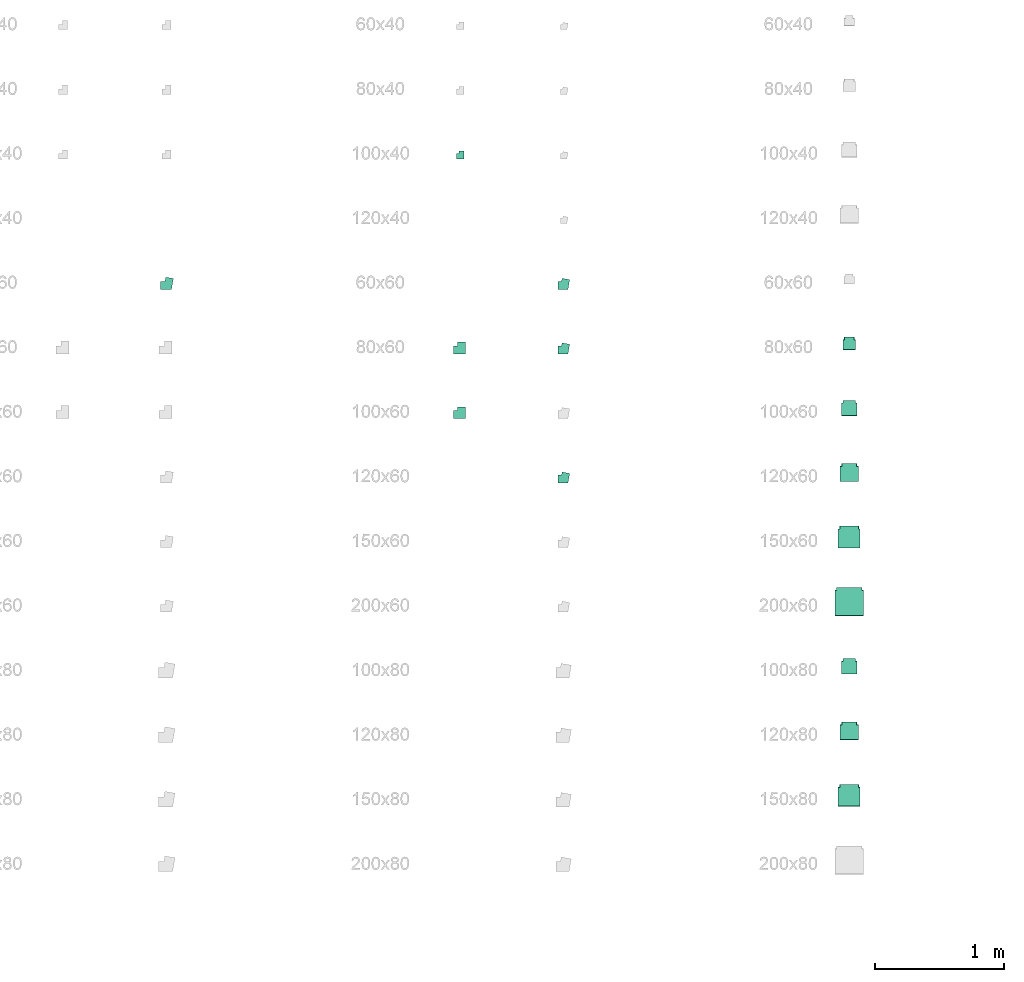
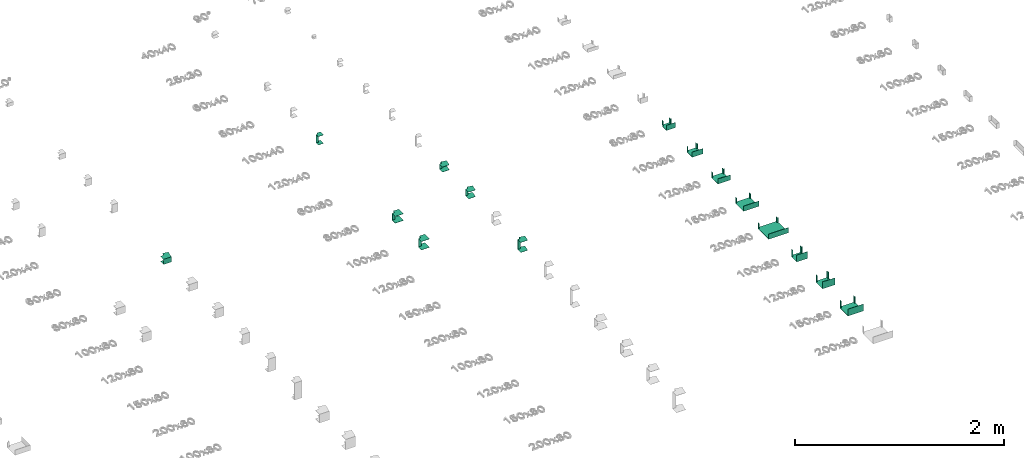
# One storey, part 7 of 71: 15 flow fittings.
"""IFC2X3 building model written with IfcOpenShell, lengths in millimetres."""

from ifc_helpers import new_model, entity, si_unit, converted_unit, derived_unit, direction, frame, origin, place, context, subcontext, project, spatial, faceted_brep, source, transform, mapped, material, type_object, type_shapes, element, save


model = new_model("IFC2X3")

# Units and contexts
model_context = context("Model", 3, precision=0.01, world=origin(), true_north=direction((6.12303176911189e-17, 1.0)))
body_context = subcontext(model_context, "Body", "Model", "MODEL_VIEW")
ifc_project = project(units=[si_unit("LENGTHUNIT", "METRE", prefix="MILLI"), si_unit("AREAUNIT", "SQUARE_METRE"), si_unit("VOLUMEUNIT", "CUBIC_METRE"), converted_unit("PLANEANGLEUNIT", "DEGREE", entity("IfcRatioMeasure", 0.0174532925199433), si_unit("PLANEANGLEUNIT", "RADIAN"), dimensions=[0, 0, 0, 0, 0, 0, 0]), si_unit("MASSUNIT", "GRAM", prefix="KILO"), derived_unit("MASSDENSITYUNIT", [(si_unit("MASSUNIT", "GRAM", prefix="KILO"), 1), (si_unit("LENGTHUNIT", "METRE"), -3)]), si_unit("TIMEUNIT", "SECOND"), si_unit("FREQUENCYUNIT", "HERTZ"), si_unit("THERMODYNAMICTEMPERATUREUNIT", "DEGREE_CELSIUS"), derived_unit("THERMALTRANSMITTANCEUNIT", [(si_unit("MASSUNIT", "GRAM", prefix="KILO"), 1), (si_unit("THERMODYNAMICTEMPERATUREUNIT", "KELVIN"), -1), (si_unit("TIMEUNIT", "SECOND"), -3)]), derived_unit("VOLUMETRICFLOWRATEUNIT", [(si_unit("LENGTHUNIT", "METRE"), 3), (si_unit("TIMEUNIT", "SECOND"), -1)]), si_unit("ELECTRICCURRENTUNIT", "AMPERE"), si_unit("ELECTRICVOLTAGEUNIT", "VOLT"), si_unit("POWERUNIT", "WATT"), si_unit("FORCEUNIT", "NEWTON", prefix="KILO"), si_unit("ILLUMINANCEUNIT", "LUX"), si_unit("LUMINOUSFLUXUNIT", "LUMEN"), si_unit("LUMINOUSINTENSITYUNIT", "CANDELA"), derived_unit("USERDEFINED", [(si_unit("MASSUNIT", "GRAM", prefix="KILO"), -1), (si_unit("LENGTHUNIT", "METRE"), -2), (si_unit("TIMEUNIT", "SECOND"), 3), (si_unit("LUMINOUSFLUXUNIT", "LUMEN"), 1)]), derived_unit("LINEARVELOCITYUNIT", [(si_unit("LENGTHUNIT", "METRE"), 1), (si_unit("TIMEUNIT", "SECOND"), -1)]), si_unit("PRESSUREUNIT", "PASCAL"), derived_unit("USERDEFINED", [(si_unit("LENGTHUNIT", "METRE"), -2), (si_unit("MASSUNIT", "GRAM", prefix="KILO"), 1), (si_unit("TIMEUNIT", "SECOND"), -2)])], contexts=[model_context])

# Site, building, storey
site_placement = place(None, origin())
site = spatial("IfcSite", under=ifc_project, at=site_placement, Name="Default", CompositionType="ELEMENT")
building_placement = place(site_placement, origin())
building = spatial("IfcBuilding", under=site, at=building_placement, Name="Наименование здания", CompositionType="ELEMENT")
storey_placement = place(building_placement, origin())
storey = spatial("IfcBuildingStorey", under=building, at=storey_placement, Name="Этаж 01", CompositionType="ELEMENT", Elevation=0.0)

# Flow fittings
ifc_material = material(Name="DKC_Пластик_Белый")
cable_carrier_fitting_type_1 = type_object("IfcCableCarrierFittingType", Name="Угол внутренний_DKC", PredefinedType="NOTDEFINED", material=ifc_material)
shared_shape_1 = source(origin(), body_context, "Body", "Brep", [
    faceted_brep([(-59.5414760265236, -30.0, 30.0), (-59.5414760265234, 30.0, 30.0), (-59.5414760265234, 30.0, 27.5000000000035), (-59.5414760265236, -27.4999999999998, 27.5000000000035), (-59.5414760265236, -27.4999999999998, -27.4999999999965), (-59.5414760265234, 30.0, -27.4999999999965), (-59.5414760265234, 30.0, -30.0), (-59.5414760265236, -30.0, -30.0), (39.8835013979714, 53.4274618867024, 30.0), (39.8835013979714, 53.4274618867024, -30.0), (-19.2049637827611, 63.8463525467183, -30.0), (-19.2049637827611, 63.8463525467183, -27.4999999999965), (37.4214820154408, 53.8615823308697, -27.4999999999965), (37.4214820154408, 53.8615823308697, 27.5000000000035), (-19.2049637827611, 63.8463525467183, 27.5000000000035), (-19.2049637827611, 63.8463525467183, 30.0), (25.172988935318, -30.0, 30.0), (-25.1729889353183, 30.0, 30.0), (-25.1729889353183, 30.0, 27.5000000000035), (23.0752398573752, -27.5000000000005, 27.5000000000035), (23.0752398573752, -27.5000000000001, -27.4999999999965), (-25.1729889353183, 30.0, -27.4999999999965), (-25.1729889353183, 30.0, -30.0), (25.1729889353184, -30.0, -30.0)], [[[0, 1, 2, 3, 4, 5, 6, 7]], [[8, 9, 10, 11, 12, 13, 14, 15]], [[1, 0, 16, 8, 15, 17]], [[2, 1, 17, 18]], [[3, 2, 18, 14, 13, 19]], [[4, 3, 19, 20]], [[5, 4, 20, 12, 11, 21]], [[6, 5, 21, 22]], [[7, 6, 22, 10, 9, 23]], [[0, 7, 23, 16]], [[18, 17, 15, 14]], [[20, 19, 13, 12]], [[22, 21, 11, 10]], [[16, 23, 9, 8]]]),
])
type_shapes(cable_carrier_fitting_type_1, [shared_shape_1])
flow_fitting_1_placement = place(storey_placement, frame((16600.2023027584, 60.7911827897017, 0.0)))
element("IfcFlowFitting", 1, at=flow_fitting_1_placement, inside=storey, type_object=cable_carrier_fitting_type_1, material=ifc_material, Name="КНС_УголВнутренний_ILC_DKC:Угол внутренний_DKC", ObjectType="Угол внутренний_DKC", context=body_context, shape_type="MappedRepresentation", body=[
    mapped(shared_shape_1, transform((0.0, 0.0, 0.0), scale=1.0)),
])
cable_carrier_fitting_type_2 = type_object("IfcCableCarrierFittingType", Name="Угол внешний_DKC", PredefinedType="NOTDEFINED", material=ifc_material)
shared_shape_2 = source(origin(), body_context, "Body", "Brep", [
    faceted_brep([(-40.0, 20.0, 50.0), (-40.0, 20.0, -50.0), (-40.0, -20.0, -50.0), (-40.0, -20.0, -47.4999999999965), (-40.0, 17.5000000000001, -47.4999999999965), (-40.0, 17.5000000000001, 47.5000000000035), (-40.0, -20.0, 47.5000000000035), (-40.0, -20.0, 50.0), (-20.0, 40.0, 50.0), (20.0, 40.0, 50.0), (20.0, 40.0, 47.5000000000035), (-17.499999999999, 40.0, 47.5000000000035), (-17.499999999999, 40.0, -47.4999999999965), (20.0, 40.0, -47.4999999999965), (20.0, 40.0, -50.0), (-20.0, 40.0, -50.0), (-20.0, 20.0, 50.0), (-20.0, 20.0, -50.0), (20.0, -20.0, -50.0), (20.0, -20.0, -47.4999999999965), (-17.4999999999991, 17.4999999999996, -47.4999999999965), (-17.4999999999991, 17.5000000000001, 47.5000000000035), (20.0, -20.0, 47.5000000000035), (20.0, -20.0, 50.0)], [[[0, 1, 2, 3, 4, 5, 6, 7]], [[8, 9, 10, 11, 12, 13, 14, 15]], [[1, 0, 16, 17]], [[2, 1, 17, 15, 14, 18]], [[3, 2, 18, 19]], [[4, 3, 19, 13, 12, 20]], [[5, 4, 20, 21]], [[6, 5, 21, 11, 10, 22]], [[7, 6, 22, 23]], [[0, 7, 23, 9, 8, 16]], [[17, 16, 8, 15]], [[19, 18, 14, 13]], [[21, 20, 12, 11]], [[23, 22, 10, 9]]]),
])
type_shapes(cable_carrier_fitting_type_2, [shared_shape_2])
flow_fitting_2_placement = place(storey_placement, frame((18870.2876691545, 1060.7911827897, 0.0)))
element("IfcFlowFitting", 2, at=flow_fitting_2_placement, inside=storey, type_object=cable_carrier_fitting_type_2, material=ifc_material, Name="КНС_УголВнешний_ILC_DKC:Угол внешний_DKC", ObjectType="Угол внешний_DKC", context=body_context, shape_type="MappedRepresentation", body=[
    mapped(shared_shape_2, transform((0.0, 0.0, 0.0), scale=1.0)),
])
cable_carrier_fitting_type_3 = type_object("IfcCableCarrierFittingType", Name="Угол внешний_DKC", PredefinedType="NOTDEFINED", material=ifc_material)
shared_shape_3 = source(origin(), body_context, "Body", "Brep", [
    faceted_brep([(-60.0, 30.0, 40.0), (-60.0, 30.0, -40.0), (-60.0, -30.0, -40.0), (-60.0, -30.0, -37.4999999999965), (-60.0, 27.5000000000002, -37.4999999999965), (-60.0, 27.5000000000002, 37.5000000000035), (-60.0, -30.0, 37.5000000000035), (-60.0, -30.0, 40.0), (-30.0, 60.0, 40.0), (30.0, 60.0, 40.0), (30.0, 60.0, 37.5000000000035), (-27.499999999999, 60.0, 37.5000000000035), (-27.499999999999, 60.0, -37.4999999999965), (30.0, 60.0, -37.4999999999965), (30.0, 60.0, -40.0), (-30.0, 60.0, -40.0), (-30.0, 30.0, 40.0), (-30.0, 30.0, -40.0), (30.0, -30.0, -40.0), (30.0, -30.0, -37.4999999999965), (-27.499999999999, 27.4999999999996, -37.4999999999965), (-27.499999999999, 27.5000000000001, 37.5000000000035), (30.0, -30.0, 37.5000000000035), (30.0, -30.0, 40.0)], [[[0, 1, 2, 3, 4, 5, 6, 7]], [[8, 9, 10, 11, 12, 13, 14, 15]], [[1, 0, 16, 17]], [[2, 1, 17, 15, 14, 18]], [[3, 2, 18, 19]], [[4, 3, 19, 13, 12, 20]], [[5, 4, 20, 21]], [[6, 5, 21, 11, 10, 22]], [[7, 6, 22, 23]], [[0, 7, 23, 9, 8, 16]], [[17, 16, 8, 15]], [[19, 18, 14, 13]], [[21, 20, 12, 11]], [[23, 22, 10, 9]]]),
])
type_shapes(cable_carrier_fitting_type_3, [shared_shape_3])
flow_fitting_3_placement = place(storey_placement, frame((18870.2876691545, -439.208817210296, 0.0)))
element("IfcFlowFitting", 3, at=flow_fitting_3_placement, inside=storey, type_object=cable_carrier_fitting_type_3, material=ifc_material, Name="КНС_УголВнешний_ILC_DKC:Угол внешний_DKC", ObjectType="Угол внешний_DKC", context=body_context, shape_type="MappedRepresentation", body=[
    mapped(shared_shape_3, transform((0.0, 0.0, 0.0), scale=1.0)),
])
cable_carrier_fitting_type_4 = type_object("IfcCableCarrierFittingType", Name="Угол внешний_DKC", PredefinedType="NOTDEFINED", material=ifc_material)
shared_shape_4 = source(origin(), body_context, "Body", "Brep", [
    faceted_brep([(-60.0, 30.0, 50.0), (-60.0, 30.0, -50.0), (-60.0, -30.0, -50.0), (-60.0, -30.0, -47.4999999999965), (-60.0, 27.5000000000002, -47.4999999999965), (-60.0, 27.5000000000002, 47.5000000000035), (-60.0, -30.0, 47.5000000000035), (-60.0, -30.0, 50.0), (-30.0, 60.0, 50.0), (30.0, 60.0, 50.0), (30.0, 60.0, 47.5000000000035), (-27.499999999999, 60.0, 47.5000000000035), (-27.499999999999, 60.0, -47.4999999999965), (30.0, 60.0, -47.4999999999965), (30.0, 60.0, -50.0), (-30.0, 60.0, -50.0), (-30.0, 30.0, 50.0), (-30.0, 30.0, -50.0), (30.0, -30.0, -50.0), (30.0, -30.0, -47.4999999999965), (-27.499999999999, 27.4999999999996, -47.4999999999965), (-27.499999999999, 27.5000000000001, 47.5000000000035), (30.0, -30.0, 47.5000000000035), (30.0, -30.0, 50.0)], [[[0, 1, 2, 3, 4, 5, 6, 7]], [[8, 9, 10, 11, 12, 13, 14, 15]], [[1, 0, 16, 17]], [[2, 1, 17, 15, 14, 18]], [[3, 2, 18, 19]], [[4, 3, 19, 13, 12, 20]], [[5, 4, 20, 21]], [[6, 5, 21, 11, 10, 22]], [[7, 6, 22, 23]], [[0, 7, 23, 9, 8, 16]], [[17, 16, 8, 15]], [[19, 18, 14, 13]], [[21, 20, 12, 11]], [[23, 22, 10, 9]]]),
])
type_shapes(cable_carrier_fitting_type_4, [shared_shape_4])
flow_fitting_4_placement = place(storey_placement, frame((18870.2876691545, -939.208817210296, 0.0)))
element("IfcFlowFitting", 4, at=flow_fitting_4_placement, inside=storey, type_object=cable_carrier_fitting_type_4, material=ifc_material, Name="КНС_УголВнешний_ILC_DKC:Угол внешний_DKC", ObjectType="Угол внешний_DKC", context=body_context, shape_type="MappedRepresentation", body=[
    mapped(shared_shape_4, transform((0.0, 0.0, 0.0), scale=1.0)),
])
cable_carrier_fitting_type_5 = type_object("IfcCableCarrierFittingType", Name="Угол внешний_DKC", PredefinedType="NOTDEFINED", material=ifc_material)
shared_shape_5 = source(origin(), body_context, "Body", "Brep", [
    faceted_brep([(-50.3459778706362, 30.0, 30.0), (-50.3459778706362, 30.0, -30.0), (-50.3459778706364, -30.0, -30.0), (-50.3459778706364, -30.0, -27.4999999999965), (-50.3459778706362, 27.5000000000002, -27.4999999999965), (-50.3459778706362, 27.5000000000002, 27.5000000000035), (-50.3459778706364, -30.0, 27.5000000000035), (-50.3459778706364, -30.0, 30.0), (-20.8017452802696, 54.7905546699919, 30.0), (38.2867199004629, 44.371664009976, 30.0), (38.2867199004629, 44.371664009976, 27.5000000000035), (-18.3397258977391, 54.3564342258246, 27.5000000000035), (-18.3397258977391, 54.3564342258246, -27.4999999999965), (38.2867199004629, 44.371664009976, -27.4999999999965), (38.2867199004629, 44.371664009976, -30.0), (-20.8017452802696, 54.7905546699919, -30.0), (-25.1729889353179, 30.0, 30.0), (-25.1729889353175, 30.0, -30.0), (25.1729889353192, -30.0, -30.0), (25.1729889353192, -30.0, -27.4999999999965), (-23.0752398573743, 27.4999999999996, -27.4999999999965), (-23.0752398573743, 27.5000000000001, 27.5000000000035), (25.1729889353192, -30.0, 27.5000000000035), (25.1729889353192, -30.0, 30.0)], [[[0, 1, 2, 3, 4, 5, 6, 7]], [[8, 9, 10, 11, 12, 13, 14, 15]], [[1, 0, 16, 17]], [[2, 1, 17, 15, 14, 18]], [[3, 2, 18, 19]], [[4, 3, 19, 13, 12, 20]], [[5, 4, 20, 21]], [[6, 5, 21, 11, 10, 22]], [[7, 6, 22, 23]], [[0, 7, 23, 9, 8, 16]], [[17, 16, 8, 15]], [[19, 18, 14, 13]], [[21, 20, 12, 11]], [[23, 22, 10, 9]]]),
])
type_shapes(cable_carrier_fitting_type_5, [shared_shape_5])
flow_fitting_5_placement = place(storey_placement, frame((19670.2876691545, 60.7911827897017, 0.0)))
element("IfcFlowFitting", 5, at=flow_fitting_5_placement, inside=storey, type_object=cable_carrier_fitting_type_5, material=ifc_material, Name="КНС_УголВнешний_ILC_DKC:Угол внешний_DKC", ObjectType="Угол внешний_DKC", context=body_context, shape_type="MappedRepresentation", body=[
    mapped(shared_shape_5, transform((0.0, 0.0, 0.0), scale=1.0)),
])
cable_carrier_fitting_type_6 = type_object("IfcCableCarrierFittingType", Name="Угол внешний_DKC", PredefinedType="NOTDEFINED", material=ifc_material)
shared_shape_6 = source(origin(), body_context, "Body", "Brep", [
    faceted_brep([(-50.3459778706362, 30.0, 40.0), (-50.3459778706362, 30.0, -40.0), (-50.3459778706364, -30.0, -40.0), (-50.3459778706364, -30.0, -37.4999999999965), (-50.3459778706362, 27.5000000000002, -37.4999999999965), (-50.3459778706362, 27.5000000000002, 37.5000000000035), (-50.3459778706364, -30.0, 37.5000000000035), (-50.3459778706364, -30.0, 40.0), (-20.8017452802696, 54.7905546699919, 40.0), (38.2867199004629, 44.371664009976, 40.0), (38.2867199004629, 44.371664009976, 37.5000000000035), (-18.3397258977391, 54.3564342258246, 37.5000000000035), (-18.3397258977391, 54.3564342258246, -37.4999999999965), (38.2867199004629, 44.371664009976, -37.4999999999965), (38.2867199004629, 44.371664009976, -40.0), (-20.8017452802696, 54.7905546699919, -40.0), (-25.1729889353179, 30.0, 40.0), (-25.1729889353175, 30.0, -40.0), (25.1729889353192, -30.0, -40.0), (25.1729889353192, -30.0, -37.4999999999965), (-23.0752398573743, 27.4999999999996, -37.4999999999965), (-23.0752398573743, 27.5000000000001, 37.5000000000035), (25.1729889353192, -30.0, 37.5000000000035), (25.1729889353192, -30.0, 40.0)], [[[0, 1, 2, 3, 4, 5, 6, 7]], [[8, 9, 10, 11, 12, 13, 14, 15]], [[1, 0, 16, 17]], [[2, 1, 17, 15, 14, 18]], [[3, 2, 18, 19]], [[4, 3, 19, 13, 12, 20]], [[5, 4, 20, 21]], [[6, 5, 21, 11, 10, 22]], [[7, 6, 22, 23]], [[0, 7, 23, 9, 8, 16]], [[17, 16, 8, 15]], [[19, 18, 14, 13]], [[21, 20, 12, 11]], [[23, 22, 10, 9]]]),
])
type_shapes(cable_carrier_fitting_type_6, [shared_shape_6])
flow_fitting_6_placement = place(storey_placement, frame((19670.2876691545, -439.208817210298, 0.0)))
element("IfcFlowFitting", 6, at=flow_fitting_6_placement, inside=storey, type_object=cable_carrier_fitting_type_6, material=ifc_material, Name="КНС_УголВнешний_ILC_DKC:Угол внешний_DKC", ObjectType="Угол внешний_DKC", context=body_context, shape_type="MappedRepresentation", body=[
    mapped(shared_shape_6, transform((0.0, 0.0, 0.0), scale=1.0)),
])
cable_carrier_fitting_type_7 = type_object("IfcCableCarrierFittingType", Name="Угол внешний_DKC", PredefinedType="NOTDEFINED", material=ifc_material)
shared_shape_7 = source(origin(), body_context, "Body", "Brep", [
    faceted_brep([(-50.3459778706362, 30.0, 60.0), (-50.3459778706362, 30.0, -60.0), (-50.3459778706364, -30.0, -60.0), (-50.3459778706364, -30.0, -57.4999999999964), (-50.3459778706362, 27.5000000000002, -57.4999999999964), (-50.3459778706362, 27.5000000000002, 57.5000000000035), (-50.3459778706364, -30.0, 57.5000000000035), (-50.3459778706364, -30.0, 60.0), (-20.8017452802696, 54.7905546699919, 60.0), (38.2867199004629, 44.371664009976, 60.0), (38.2867199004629, 44.371664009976, 57.5000000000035), (-18.3397258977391, 54.3564342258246, 57.5000000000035), (-18.3397258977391, 54.3564342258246, -57.4999999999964), (38.2867199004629, 44.371664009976, -57.4999999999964), (38.2867199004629, 44.371664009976, -60.0), (-20.8017452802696, 54.7905546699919, -60.0), (-25.1729889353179, 30.0, 60.0), (-25.1729889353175, 30.0, -60.0), (25.1729889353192, -30.0, -60.0), (25.1729889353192, -30.0, -57.4999999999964), (-23.0752398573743, 27.4999999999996, -57.4999999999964), (-23.0752398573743, 27.5000000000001, 57.5000000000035), (25.1729889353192, -30.0, 57.5000000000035), (25.1729889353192, -30.0, 60.0)], [[[0, 1, 2, 3, 4, 5, 6, 7]], [[8, 9, 10, 11, 12, 13, 14, 15]], [[1, 0, 16, 17]], [[2, 1, 17, 15, 14, 18]], [[3, 2, 18, 19]], [[4, 3, 19, 13, 12, 20]], [[5, 4, 20, 21]], [[6, 5, 21, 11, 10, 22]], [[7, 6, 22, 23]], [[0, 7, 23, 9, 8, 16]], [[17, 16, 8, 15]], [[19, 18, 14, 13]], [[21, 20, 12, 11]], [[23, 22, 10, 9]]]),
])
type_shapes(cable_carrier_fitting_type_7, [shared_shape_7])
flow_fitting_7_placement = place(storey_placement, frame((19670.2876691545, -1439.2088172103, 0.0)))
element("IfcFlowFitting", 7, at=flow_fitting_7_placement, inside=storey, type_object=cable_carrier_fitting_type_7, material=ifc_material, Name="КНС_УголВнешний_ILC_DKC:Угол внешний_DKC", ObjectType="Угол внешний_DKC", context=body_context, shape_type="MappedRepresentation", body=[
    mapped(shared_shape_7, transform((0.0, 0.0, 0.0), scale=1.0)),
])
cable_carrier_fitting_type_8 = type_object("IfcCableCarrierFittingType", Name="Тройник/отвод", PredefinedType="NOTDEFINED", material=ifc_material)
shared_shape_8 = source(origin(), body_context, "Body", "Brep", [
    faceted_brep([(50.0, -37.4999999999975, -27.4999999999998), (50.0, 37.5000000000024, -27.4999999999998), (37.4999999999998, 37.5000000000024, -27.4999999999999), (37.4999999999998, 60.0, -27.4999999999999), (-37.4999999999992, 60.0, -27.5000000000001), (-37.4999999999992, 37.5000000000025, -27.5000000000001), (-50.0, 37.5000000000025, -27.5000000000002), (-50.0, -37.4999999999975, -27.5000000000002), (50.0, -40.0, -30.0), (-50.0, -40.0, -30.0), (-50.0, 40.0, -30.0), (-40.0, 40.0, -30.0), (-40.0, 60.0, -30.0), (40.0, 60.0, -30.0), (40.0, 40.0, -30.0), (50.0, 40.0, -30.0), (50.0, 40.0, 30.0), (50.0, 37.5000000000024, 30.0), (50.0, -37.4999999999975, 30.0), (50.0, -40.0, 30.0), (40.0, 40.0, 30.0), (40.0, 60.0, 30.0), (-40.0, 60.0, 30.0), (-37.4999999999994, 60.0, 30.0), (37.4999999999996, 60.0, 30.0), (-40.0, 40.0, 30.0), (-50.0, 40.0, 30.0), (-50.0, -40.0, 30.0), (-50.0, -37.4999999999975, 30.0), (-50.0, 37.5000000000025, 30.0), (-37.4999999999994, 37.5000000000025, 30.0), (37.4999999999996, 37.5000000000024, 30.0)], [[[0, 1, 2, 3, 4, 5, 6, 7]], [[8, 9, 10, 11, 12, 13, 14, 15]], [[8, 15, 16, 17, 1, 0, 18, 19]], [[16, 15, 14, 20]], [[20, 14, 13, 21]], [[21, 13, 12, 22, 23, 4, 3, 24]], [[22, 12, 11, 25]], [[25, 11, 10, 26]], [[26, 10, 9, 27, 28, 7, 6, 29]], [[27, 9, 8, 19]], [[27, 19, 18, 28]], [[30, 29, 6, 5]], [[23, 30, 5, 4]], [[31, 24, 3, 2]], [[17, 31, 2, 1]], [[28, 18, 0, 7]], [[20, 21, 24, 31, 17, 16]], [[25, 26, 29, 30, 23, 22]]]),
])
type_shapes(cable_carrier_fitting_type_8, [shared_shape_8])
flow_fitting_8_placement = place(storey_placement, frame((21873.0522222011, -399.208817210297, 0.0)))
element("IfcFlowFitting", 8, at=flow_fitting_8_placement, inside=storey, type_object=cable_carrier_fitting_type_8, material=ifc_material, Name="КНС_ТройникNTAN_ILC_DKC:Тройник/отвод", ObjectType="Тройник/отвод", context=body_context, shape_type="MappedRepresentation", body=[
    mapped(shared_shape_8, transform((0.0, 0.0, 0.0), scale=1.0)),
])
cable_carrier_fitting_type_9 = type_object("IfcCableCarrierFittingType", Name="Тройник/отвод", PredefinedType="NOTDEFINED", material=ifc_material)
shared_shape_9 = source(origin(), body_context, "Body", "Brep", [
    faceted_brep([(60.0, -47.4999999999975, -27.4999999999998), (60.0, 47.5000000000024, -27.4999999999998), (47.4999999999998, 47.5000000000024, -27.4999999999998), (47.4999999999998, 70.0, -27.4999999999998), (-47.4999999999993, 70.0, -27.5000000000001), (-47.4999999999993, 47.5000000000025, -27.5000000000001), (-60.0, 47.5000000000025, -27.5000000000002), (-60.0, -47.4999999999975, -27.5000000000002), (60.0, -50.0, -30.0), (-60.0, -50.0, -30.0), (-60.0, 50.0, -30.0), (-50.0, 50.0, -30.0), (-50.0, 70.0, -30.0), (50.0, 70.0, -30.0), (50.0, 50.0, -30.0), (60.0, 50.0, -30.0), (60.0, 50.0, 30.0), (60.0, 47.5000000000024, 30.0), (60.0, -47.4999999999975, 30.0), (60.0, -50.0, 30.0), (50.0, 50.0, 30.0), (50.0, 70.0, 30.0), (-50.0, 70.0, 30.0), (-47.4999999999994, 70.0, 30.0), (47.4999999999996, 70.0, 30.0), (-50.0, 50.0, 30.0), (-60.0, 50.0, 30.0), (-60.0, -50.0, 30.0), (-60.0, -47.4999999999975, 30.0), (-60.0, 47.5000000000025, 30.0), (-47.4999999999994, 47.5000000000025, 30.0), (47.4999999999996, 47.5000000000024, 30.0)], [[[0, 1, 2, 3, 4, 5, 6, 7]], [[8, 9, 10, 11, 12, 13, 14, 15]], [[8, 15, 16, 17, 1, 0, 18, 19]], [[16, 15, 14, 20]], [[20, 14, 13, 21]], [[21, 13, 12, 22, 23, 4, 3, 24]], [[22, 12, 11, 25]], [[25, 11, 10, 26]], [[26, 10, 9, 27, 28, 7, 6, 29]], [[27, 9, 8, 19]], [[27, 19, 18, 28]], [[30, 29, 6, 5]], [[23, 30, 5, 4]], [[31, 24, 3, 2]], [[17, 31, 2, 1]], [[28, 18, 0, 7]], [[20, 21, 24, 31, 17, 16]], [[25, 26, 29, 30, 23, 22]]]),
])
type_shapes(cable_carrier_fitting_type_9, [shared_shape_9])
flow_fitting_9_placement = place(storey_placement, frame((21873.0522222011, -899.208817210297, 0.0)))
element("IfcFlowFitting", 9, at=flow_fitting_9_placement, inside=storey, type_object=cable_carrier_fitting_type_9, material=ifc_material, Name="КНС_ТройникNTAN_ILC_DKC:Тройник/отвод", ObjectType="Тройник/отвод", context=body_context, shape_type="MappedRepresentation", body=[
    mapped(shared_shape_9, transform((0.0, 0.0, 0.0), scale=1.0)),
])
cable_carrier_fitting_type_10 = type_object("IfcCableCarrierFittingType", Name="Тройник/отвод", PredefinedType="NOTDEFINED", material=ifc_material)
shared_shape_10 = source(origin(), body_context, "Body", "Brep", [
    faceted_brep([(70.0, -57.4999999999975, -27.4999999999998), (70.0, 57.5000000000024, -27.4999999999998), (57.4999999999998, 57.5000000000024, -27.4999999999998), (57.4999999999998, 80.0, -27.4999999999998), (-57.4999999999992, 80.0, -27.5000000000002), (-57.4999999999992, 57.5000000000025, -27.5000000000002), (-70.0, 57.5000000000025, -27.5000000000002), (-70.0, -57.4999999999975, -27.5000000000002), (70.0, -60.0, -30.0), (-70.0, -60.0, -30.0), (-70.0, 60.0, -30.0), (-60.0, 60.0, -30.0), (-60.0, 80.0, -30.0), (60.0, 80.0, -30.0), (60.0, 60.0, -30.0), (70.0, 60.0, -30.0), (70.0, 60.0, 30.0), (70.0, 57.5000000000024, 30.0), (70.0, -57.4999999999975, 30.0), (70.0, -60.0, 30.0), (60.0, 60.0, 30.0), (60.0, 80.0, 30.0), (-60.0, 80.0, 30.0), (-57.4999999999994, 80.0, 30.0), (57.4999999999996, 80.0, 30.0), (-60.0, 60.0, 30.0), (-70.0, 60.0, 30.0), (-70.0, -60.0, 30.0), (-70.0, -57.4999999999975, 30.0), (-70.0, 57.5000000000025, 30.0), (-57.4999999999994, 57.5000000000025, 30.0), (57.4999999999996, 57.5000000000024, 30.0)], [[[0, 1, 2, 3, 4, 5, 6, 7]], [[8, 9, 10, 11, 12, 13, 14, 15]], [[8, 15, 16, 17, 1, 0, 18, 19]], [[16, 15, 14, 20]], [[20, 14, 13, 21]], [[21, 13, 12, 22, 23, 4, 3, 24]], [[22, 12, 11, 25]], [[25, 11, 10, 26]], [[26, 10, 9, 27, 28, 7, 6, 29]], [[27, 9, 8, 19]], [[27, 19, 18, 28]], [[30, 29, 6, 5]], [[23, 30, 5, 4]], [[31, 24, 3, 2]], [[17, 31, 2, 1]], [[28, 18, 0, 7]], [[20, 21, 24, 31, 17, 16]], [[25, 26, 29, 30, 23, 22]]]),
])
type_shapes(cable_carrier_fitting_type_10, [shared_shape_10])
flow_fitting_10_placement = place(storey_placement, frame((21873.0522222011, -1399.2088172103, 0.0)))
element("IfcFlowFitting", 10, at=flow_fitting_10_placement, inside=storey, type_object=cable_carrier_fitting_type_10, material=ifc_material, Name="КНС_ТройникNTAN_ILC_DKC:Тройник/отвод", ObjectType="Тройник/отвод", context=body_context, shape_type="MappedRepresentation", body=[
    mapped(shared_shape_10, transform((0.0, 0.0, 0.0), scale=1.0)),
])
cable_carrier_fitting_type_11 = type_object("IfcCableCarrierFittingType", Name="Тройник/отвод", PredefinedType="NOTDEFINED", material=ifc_material)
shared_shape_11 = source(origin(), body_context, "Body", "Brep", [
    faceted_brep([(85.0, -72.4999999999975, -27.4999999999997), (85.0, 72.5000000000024, -27.4999999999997), (72.4999999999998, 72.5000000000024, -27.4999999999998), (72.4999999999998, 95.0, -27.4999999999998), (-72.4999999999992, 95.0, -27.5000000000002), (-72.4999999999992, 72.5000000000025, -27.5000000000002), (-85.0, 72.5000000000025, -27.5000000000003), (-85.0, -72.4999999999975, -27.5000000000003), (85.0, -75.0, -30.0), (-85.0, -75.0, -30.0), (-85.0, 75.0, -30.0), (-75.0, 75.0, -30.0), (-75.0, 95.0, -30.0), (75.0, 95.0, -30.0), (75.0, 75.0, -30.0), (85.0, 75.0, -30.0), (85.0, 75.0, 30.0), (85.0, 72.5000000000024, 30.0), (85.0, -72.4999999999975, 30.0), (85.0, -75.0, 30.0), (75.0, 75.0, 30.0), (75.0, 95.0, 30.0), (-75.0, 95.0, 30.0), (-72.4999999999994, 95.0, 30.0), (72.4999999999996, 95.0, 30.0), (-75.0, 75.0, 30.0), (-85.0, 75.0, 30.0), (-85.0, -75.0, 30.0), (-85.0, -72.4999999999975, 30.0), (-85.0, 72.5000000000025, 30.0), (-72.4999999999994, 72.5000000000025, 30.0), (72.4999999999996, 72.5000000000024, 30.0)], [[[0, 1, 2, 3, 4, 5, 6, 7]], [[8, 9, 10, 11, 12, 13, 14, 15]], [[8, 15, 16, 17, 1, 0, 18, 19]], [[16, 15, 14, 20]], [[20, 14, 13, 21]], [[21, 13, 12, 22, 23, 4, 3, 24]], [[22, 12, 11, 25]], [[25, 11, 10, 26]], [[26, 10, 9, 27, 28, 7, 6, 29]], [[27, 9, 8, 19]], [[27, 19, 18, 28]], [[30, 29, 6, 5]], [[23, 30, 5, 4]], [[31, 24, 3, 2]], [[17, 31, 2, 1]], [[28, 18, 0, 7]], [[20, 21, 24, 31, 17, 16]], [[25, 26, 29, 30, 23, 22]]]),
])
type_shapes(cable_carrier_fitting_type_11, [shared_shape_11])
flow_fitting_11_placement = place(storey_placement, frame((21873.0522222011, -1899.2088172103, 0.0)))
element("IfcFlowFitting", 11, at=flow_fitting_11_placement, inside=storey, type_object=cable_carrier_fitting_type_11, material=ifc_material, Name="КНС_ТройникNTAN_ILC_DKC:Тройник/отвод", ObjectType="Тройник/отвод", context=body_context, shape_type="MappedRepresentation", body=[
    mapped(shared_shape_11, transform((0.0, 0.0, 0.0), scale=1.0)),
])
cable_carrier_fitting_type_12 = type_object("IfcCableCarrierFittingType", Name="Тройник/отвод", PredefinedType="NOTDEFINED", material=ifc_material)
shared_shape_12 = source(origin(), body_context, "Body", "Brep", [
    faceted_brep([(110.0, -97.4999999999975, -27.4999999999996), (110.0, 97.5000000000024, -27.4999999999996), (97.4999999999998, 97.5000000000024, -27.4999999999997), (97.4999999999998, 120.0, -27.4999999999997), (-97.4999999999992, 120.0, -27.5000000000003), (-97.4999999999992, 97.5000000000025, -27.5000000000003), (-110.0, 97.5000000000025, -27.5000000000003), (-110.0, -97.4999999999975, -27.5000000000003), (110.0, -100.0, -30.0), (-110.0, -100.0, -30.0), (-110.0, 100.0, -30.0), (-100.0, 100.0, -30.0), (-100.0, 120.0, -30.0), (100.0, 120.0, -30.0), (100.0, 100.0, -30.0), (110.0, 100.0, -30.0), (110.0, 100.0, 30.0), (110.0, 97.5000000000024, 30.0), (110.0, -97.4999999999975, 30.0), (110.0, -100.0, 30.0), (100.0, 100.0, 30.0), (100.0, 120.0, 30.0), (-100.0, 120.0, 30.0), (-97.4999999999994, 120.0, 30.0), (97.4999999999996, 120.0, 30.0), (-100.0, 100.0, 30.0), (-110.0, 100.0, 30.0), (-110.0, -100.0, 30.0), (-110.0, -97.4999999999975, 30.0), (-110.0, 97.5000000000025, 30.0), (-97.4999999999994, 97.5000000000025, 30.0), (97.4999999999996, 97.5000000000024, 30.0)], [[[0, 1, 2, 3, 4, 5, 6, 7]], [[8, 9, 10, 11, 12, 13, 14, 15]], [[8, 15, 16, 17, 1, 0, 18, 19]], [[16, 15, 14, 20]], [[20, 14, 13, 21]], [[21, 13, 12, 22, 23, 4, 3, 24]], [[22, 12, 11, 25]], [[25, 11, 10, 26]], [[26, 10, 9, 27, 28, 7, 6, 29]], [[27, 9, 8, 19]], [[27, 19, 18, 28]], [[30, 29, 6, 5]], [[23, 30, 5, 4]], [[31, 24, 3, 2]], [[17, 31, 2, 1]], [[28, 18, 0, 7]], [[20, 21, 24, 31, 17, 16]], [[25, 26, 29, 30, 23, 22]]]),
])
type_shapes(cable_carrier_fitting_type_12, [shared_shape_12])
flow_fitting_12_placement = place(storey_placement, frame((21873.0522222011, -2399.2088172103, 0.0)))
element("IfcFlowFitting", 12, at=flow_fitting_12_placement, inside=storey, type_object=cable_carrier_fitting_type_12, material=ifc_material, Name="КНС_ТройникNTAN_ILC_DKC:Тройник/отвод", ObjectType="Тройник/отвод", context=body_context, shape_type="MappedRepresentation", body=[
    mapped(shared_shape_12, transform((0.0, 0.0, 0.0), scale=1.0)),
])
cable_carrier_fitting_type_13 = type_object("IfcCableCarrierFittingType", Name="Тройник/отвод", PredefinedType="NOTDEFINED", material=ifc_material)
shared_shape_13 = source(origin(), body_context, "Body", "Brep", [
    faceted_brep([(60.0, -47.4999999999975, -37.4999999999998), (60.0, 47.5000000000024, -37.4999999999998), (47.4999999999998, 47.5000000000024, -37.4999999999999), (47.4999999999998, 70.0, -37.4999999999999), (-47.4999999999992, 70.0, -37.5000000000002), (-47.4999999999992, 47.5000000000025, -37.5000000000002), (-60.0, 47.5000000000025, -37.5000000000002), (-60.0, -47.4999999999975, -37.5000000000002), (60.0, -50.0, -40.0), (-60.0, -50.0, -40.0), (-60.0, 50.0, -40.0), (-50.0, 50.0, -40.0), (-50.0, 70.0, -40.0), (50.0, 70.0, -40.0), (50.0, 50.0, -40.0), (60.0, 50.0, -40.0), (60.0, 50.0, 40.0), (60.0, 47.5000000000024, 40.0), (60.0, -47.4999999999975, 40.0), (60.0, -50.0, 40.0), (50.0, 50.0, 40.0), (50.0, 70.0, 40.0), (-50.0, 70.0, 40.0), (-47.4999999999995, 70.0, 40.0), (47.4999999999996, 70.0, 40.0), (-50.0, 50.0, 40.0), (-60.0, 50.0, 40.0), (-60.0, -50.0, 40.0), (-60.0, -47.4999999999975, 40.0), (-60.0, 47.5000000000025, 40.0), (-47.4999999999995, 47.5000000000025, 40.0), (47.4999999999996, 47.5000000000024, 40.0)], [[[0, 1, 2, 3, 4, 5, 6, 7]], [[8, 9, 10, 11, 12, 13, 14, 15]], [[8, 15, 16, 17, 1, 0, 18, 19]], [[16, 15, 14, 20]], [[20, 14, 13, 21]], [[21, 13, 12, 22, 23, 4, 3, 24]], [[22, 12, 11, 25]], [[25, 11, 10, 26]], [[26, 10, 9, 27, 28, 7, 6, 29]], [[27, 9, 8, 19]], [[27, 19, 18, 28]], [[30, 29, 6, 5]], [[23, 30, 5, 4]], [[31, 24, 3, 2]], [[17, 31, 2, 1]], [[28, 18, 0, 7]], [[20, 21, 24, 31, 17, 16]], [[25, 26, 29, 30, 23, 22]]]),
])
type_shapes(cable_carrier_fitting_type_13, [shared_shape_13])
flow_fitting_13_placement = place(storey_placement, frame((21873.0522222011, -2899.2088172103, 0.0)))
element("IfcFlowFitting", 13, at=flow_fitting_13_placement, inside=storey, type_object=cable_carrier_fitting_type_13, material=ifc_material, Name="КНС_ТройникNTAN_ILC_DKC:Тройник/отвод", ObjectType="Тройник/отвод", context=body_context, shape_type="MappedRepresentation", body=[
    mapped(shared_shape_13, transform((0.0, 0.0, 0.0), scale=1.0)),
])
cable_carrier_fitting_type_14 = type_object("IfcCableCarrierFittingType", Name="Тройник/отвод", PredefinedType="NOTDEFINED", material=ifc_material)
shared_shape_14 = source(origin(), body_context, "Body", "Brep", [
    faceted_brep([(70.0, -57.4999999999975, -37.4999999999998), (70.0, 57.5000000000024, -37.4999999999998), (57.4999999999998, 57.5000000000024, -37.4999999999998), (57.4999999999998, 80.0, -37.4999999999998), (-57.4999999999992, 80.0, -37.5000000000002), (-57.4999999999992, 57.5000000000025, -37.5000000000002), (-70.0, 57.5000000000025, -37.5000000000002), (-70.0, -57.4999999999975, -37.5000000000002), (70.0, -60.0, -40.0), (-70.0, -60.0, -40.0), (-70.0, 60.0, -40.0), (-60.0, 60.0, -40.0), (-60.0, 80.0, -40.0), (60.0, 80.0, -40.0), (60.0, 60.0, -40.0), (70.0, 60.0, -40.0), (70.0, 60.0, 40.0), (70.0, 57.5000000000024, 40.0), (70.0, -57.4999999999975, 40.0), (70.0, -60.0, 40.0), (60.0, 60.0, 40.0), (60.0, 80.0, 40.0), (-60.0, 80.0, 40.0), (-57.4999999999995, 80.0, 40.0), (57.4999999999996, 80.0, 40.0), (-60.0, 60.0, 40.0), (-70.0, 60.0, 40.0), (-70.0, -60.0, 40.0), (-70.0, -57.4999999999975, 40.0), (-70.0, 57.5000000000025, 40.0), (-57.4999999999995, 57.5000000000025, 40.0), (57.4999999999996, 57.5000000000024, 40.0)], [[[0, 1, 2, 3, 4, 5, 6, 7]], [[8, 9, 10, 11, 12, 13, 14, 15]], [[8, 15, 16, 17, 1, 0, 18, 19]], [[16, 15, 14, 20]], [[20, 14, 13, 21]], [[21, 13, 12, 22, 23, 4, 3, 24]], [[22, 12, 11, 25]], [[25, 11, 10, 26]], [[26, 10, 9, 27, 28, 7, 6, 29]], [[27, 9, 8, 19]], [[27, 19, 18, 28]], [[30, 29, 6, 5]], [[23, 30, 5, 4]], [[31, 24, 3, 2]], [[17, 31, 2, 1]], [[28, 18, 0, 7]], [[20, 21, 24, 31, 17, 16]], [[25, 26, 29, 30, 23, 22]]]),
])
type_shapes(cable_carrier_fitting_type_14, [shared_shape_14])
flow_fitting_14_placement = place(storey_placement, frame((21873.0522222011, -3399.2088172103, 0.0)))
element("IfcFlowFitting", 14, at=flow_fitting_14_placement, inside=storey, type_object=cable_carrier_fitting_type_14, material=ifc_material, Name="КНС_ТройникNTAN_ILC_DKC:Тройник/отвод", ObjectType="Тройник/отвод", context=body_context, shape_type="MappedRepresentation", body=[
    mapped(shared_shape_14, transform((0.0, 0.0, 0.0), scale=1.0)),
])
cable_carrier_fitting_type_15 = type_object("IfcCableCarrierFittingType", Name="Тройник/отвод", PredefinedType="NOTDEFINED", material=ifc_material)
shared_shape_15 = source(origin(), body_context, "Body", "Brep", [
    faceted_brep([(85.0, -72.4999999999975, -37.4999999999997), (85.0, 72.5000000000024, -37.4999999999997), (72.4999999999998, 72.5000000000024, -37.4999999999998), (72.4999999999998, 95.0, -37.4999999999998), (-72.4999999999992, 95.0, -37.5000000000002), (-72.4999999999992, 72.5000000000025, -37.5000000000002), (-85.0, 72.5000000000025, -37.5000000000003), (-85.0, -72.4999999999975, -37.5000000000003), (85.0, -75.0, -40.0), (-85.0, -75.0, -40.0), (-85.0, 75.0, -40.0), (-75.0, 75.0, -40.0), (-75.0, 95.0, -40.0), (75.0, 95.0, -40.0), (75.0, 75.0, -40.0), (85.0, 75.0, -40.0), (85.0, 75.0, 40.0), (85.0, 72.5000000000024, 40.0), (85.0, -72.4999999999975, 40.0), (85.0, -75.0, 40.0), (75.0, 75.0, 40.0), (75.0, 95.0, 40.0), (-75.0, 95.0, 40.0), (-72.4999999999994, 95.0, 40.0), (72.4999999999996, 95.0, 40.0), (-75.0, 75.0, 40.0), (-85.0, 75.0, 40.0), (-85.0, -75.0, 40.0), (-85.0, -72.4999999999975, 40.0), (-85.0, 72.5000000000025, 40.0), (-72.4999999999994, 72.5000000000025, 40.0), (72.4999999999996, 72.5000000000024, 40.0)], [[[0, 1, 2, 3, 4, 5, 6, 7]], [[8, 9, 10, 11, 12, 13, 14, 15]], [[8, 15, 16, 17, 1, 0, 18, 19]], [[16, 15, 14, 20]], [[20, 14, 13, 21]], [[21, 13, 12, 22, 23, 4, 3, 24]], [[22, 12, 11, 25]], [[25, 11, 10, 26]], [[26, 10, 9, 27, 28, 7, 6, 29]], [[27, 9, 8, 19]], [[27, 19, 18, 28]], [[30, 29, 6, 5]], [[23, 30, 5, 4]], [[31, 24, 3, 2]], [[17, 31, 2, 1]], [[28, 18, 0, 7]], [[20, 21, 24, 31, 17, 16]], [[25, 26, 29, 30, 23, 22]]]),
])
type_shapes(cable_carrier_fitting_type_15, [shared_shape_15])
flow_fitting_15_placement = place(storey_placement, frame((21873.0522222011, -3899.2088172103, 0.0)))
element("IfcFlowFitting", 15, at=flow_fitting_15_placement, inside=storey, type_object=cable_carrier_fitting_type_15, material=ifc_material, Name="КНС_ТройникNTAN_ILC_DKC:Тройник/отвод", ObjectType="Тройник/отвод", context=body_context, shape_type="MappedRepresentation", body=[
    mapped(shared_shape_15, transform((0.0, 0.0, 0.0), scale=1.0)),
])

save(model, "model.ifc")
